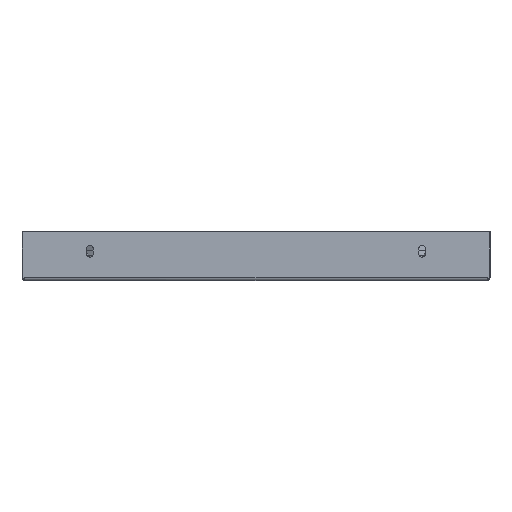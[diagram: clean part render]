
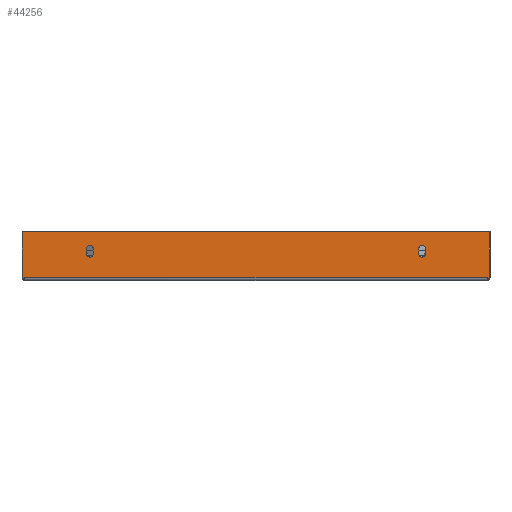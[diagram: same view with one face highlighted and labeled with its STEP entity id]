
A CAD part, front view. The second image highlights one B-rep face of the part: STEP entity #44256.
In plain terms, the highlighted planar face has unit normal (0, -1, 0).
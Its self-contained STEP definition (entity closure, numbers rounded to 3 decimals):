
#10443=DIRECTION('',(0.,0.,-1.));
#10444=VECTOR('',#10443,47.);
#10445=CARTESIAN_POINT('',(238.5,-142.913,23.9));
#10446=LINE('',#10445,#10444);
#10468=DIRECTION('',(-1.,0.,0.));
#10469=VECTOR('',#10468,477.);
#10470=CARTESIAN_POINT('',(238.5,-142.913,23.9));
#10471=LINE('',#10470,#10469);
#10568=DIRECTION('',(0.,0.,1.));
#10569=VECTOR('',#10568,47.);
#10570=CARTESIAN_POINT('',(-238.5,-142.913,
-23.1));
#10571=LINE('',#10570,#10569);
#10581=DIRECTION('',(0.,0.,1.));
#10582=VECTOR('',#10581,5.);
#10583=CARTESIAN_POINT('',(166.5,-142.913,1.4));
#10584=LINE('',#10583,#10582);
#10585=CARTESIAN_POINT('',(170.,-142.913,1.4));
#10586=DIRECTION('',(0.,-1.,0.));
#10587=DIRECTION('',(-1.,0.,0.));
#10588=AXIS2_PLACEMENT_3D('',#10585,#10586,#10587);
#10590=DIRECTION('',(0.,0.,-1.));
#10591=VECTOR('',#10590,5.);
#10592=CARTESIAN_POINT('',(173.5,-142.913,6.4));
#10593=LINE('',#10592,#10591);
#10594=CARTESIAN_POINT('',(170.,-142.913,6.4));
#10595=DIRECTION('',(0.,1.,0.));
#10596=DIRECTION('',(-1.,0.,0.));
#10597=AXIS2_PLACEMENT_3D('',#10594,#10595,#10596);
#10599=DIRECTION('',(0.,0.,1.));
#10600=VECTOR('',#10599,5.);
#10601=CARTESIAN_POINT('',(-173.5,-142.913,1.4));
#10602=LINE('',#10601,#10600);
#10603=CARTESIAN_POINT('',(-170.,-142.913,1.4));
#10604=DIRECTION('',(0.,1.,0.));
#10605=DIRECTION('',(1.,0.,0.));
#10606=AXIS2_PLACEMENT_3D('',#10603,#10604,#10605);
#10608=DIRECTION('',(0.,0.,-1.));
#10609=VECTOR('',#10608,5.);
#10610=CARTESIAN_POINT('',(-166.5,-142.913,6.4));
#10611=LINE('',#10610,#10609);
#10612=CARTESIAN_POINT('',(-170.,-142.913,6.4));
#10613=DIRECTION('',(0.,-1.,0.));
#10614=DIRECTION('',(1.,0.,0.));
#10615=AXIS2_PLACEMENT_3D('',#10612,#10613,#10614);
#10636=CARTESIAN_POINT('',(-236.793,-142.913,-23.1));
#10642=DIRECTION('',(-1.,0.,0.));
#10643=VECTOR('',#10642,473.586);
#10644=CARTESIAN_POINT('',(236.793,-142.913,
-23.1));
#10645=LINE('',#10644,#10643);
#10667=DIRECTION('',(-1.,0.,0.));
#10668=VECTOR('',#10667,1.707);
#10669=CARTESIAN_POINT('',(-236.793,-142.913,-23.1));
#10670=LINE('',#10669,#10668);
#10671=CARTESIAN_POINT('',(-238.5,-142.913,
-23.1));
#10695=DIRECTION('',(-1.,0.,0.));
#10696=VECTOR('',#10695,1.707);
#10697=CARTESIAN_POINT('',(238.5,-142.913,
-23.1));
#10698=LINE('',#10697,#10696);
#33903=CARTESIAN_POINT('',(166.5,-142.913,6.4));
#33904=CARTESIAN_POINT('',(173.5,-142.913,6.4));
#33905=VERTEX_POINT('',#33903);
#33906=VERTEX_POINT('',#33904);
#33908=CARTESIAN_POINT('',(166.5,-142.913,1.4));
#33910=VERTEX_POINT('',#33908);
#33911=CARTESIAN_POINT('',(173.5,-142.913,1.4));
#33912=VERTEX_POINT('',#33911);
#33913=CARTESIAN_POINT('',(-173.5,-142.913,1.4));
#33914=CARTESIAN_POINT('',(-173.5,-142.913,6.4));
#33915=VERTEX_POINT('',#33913);
#33916=VERTEX_POINT('',#33914);
#33917=CARTESIAN_POINT('',(-166.5,-142.913,1.4));
#33918=VERTEX_POINT('',#33917);
#33919=CARTESIAN_POINT('',(-166.5,-142.913,6.4));
#33920=VERTEX_POINT('',#33919);
#34033=CARTESIAN_POINT('',(238.5,-142.913,-23.1));
#34035=VERTEX_POINT('',#34033);
#34043=CARTESIAN_POINT('',(236.793,-142.913,
-23.1));
#34044=VERTEX_POINT('',#34043);
#34061=VERTEX_POINT('',#10671);
#34071=VERTEX_POINT('',#10636);
#34089=CARTESIAN_POINT('',(238.5,-142.913,23.9));
#34091=VERTEX_POINT('',#34089);
#34108=CARTESIAN_POINT('',(-238.5,-142.913,23.9));
#34110=VERTEX_POINT('',#34108);
#44220=CARTESIAN_POINT('',(237.5,-142.913,-24.1));
#44221=DIRECTION('',(0.,1.,0.));
#44222=DIRECTION('',(0.,0.,1.));
#44223=AXIS2_PLACEMENT_3D('',#44220,#44221,#44222);
#44224=PLANE('',#44223);
#44226=ORIENTED_EDGE('',*,*,#44225,.T.);
#44228=ORIENTED_EDGE('',*,*,#44227,.T.);
#44229=ORIENTED_EDGE('',*,*,#44213,.T.);
#44230=ORIENTED_EDGE('',*,*,#44048,.F.);
#44231=ORIENTED_EDGE('',*,*,#44025,.T.);
#44233=ORIENTED_EDGE('',*,*,#44232,.T.);
#44234=EDGE_LOOP('',(#44226,#44228,#44229,#44230,#44231,#44233));
#44235=FACE_OUTER_BOUND('',#44234,.F.);
#44237=ORIENTED_EDGE('',*,*,#44236,.F.);
#44239=ORIENTED_EDGE('',*,*,#44238,.T.);
#44241=ORIENTED_EDGE('',*,*,#44240,.F.);
#44243=ORIENTED_EDGE('',*,*,#44242,.F.);
#44244=EDGE_LOOP('',(#44237,#44239,#44241,#44243));
#44245=FACE_BOUND('',#44244,.F.);
#44247=ORIENTED_EDGE('',*,*,#44246,.F.);
#44249=ORIENTED_EDGE('',*,*,#44248,.F.);
#44251=ORIENTED_EDGE('',*,*,#44250,.F.);
#44253=ORIENTED_EDGE('',*,*,#44252,.T.);
#44254=EDGE_LOOP('',(#44247,#44249,#44251,#44253));
#44255=FACE_BOUND('',#44254,.F.);
#10589=CIRCLE('',#10588,3.5);
#10598=CIRCLE('',#10597,3.5);
#10607=CIRCLE('',#10606,3.5);
#10616=CIRCLE('',#10615,3.5);
#44025=EDGE_CURVE('',#34091,#34035,#10446,.T.);
#44048=EDGE_CURVE('',#34091,#34110,#10471,.T.);
#44213=EDGE_CURVE('',#34061,#34110,#10571,.T.);
#44225=EDGE_CURVE('',#34044,#34071,#10645,.T.);
#44227=EDGE_CURVE('',#34071,#34061,#10670,.T.);
#44232=EDGE_CURVE('',#34035,#34044,#10698,.T.);
#44236=EDGE_CURVE('',#33910,#33905,#10584,.T.);
#44238=EDGE_CURVE('',#33910,#33912,#10589,.T.);
#44240=EDGE_CURVE('',#33906,#33912,#10593,.T.);
#44242=EDGE_CURVE('',#33905,#33906,#10598,.T.);
#44246=EDGE_CURVE('',#33915,#33916,#10602,.T.);
#44248=EDGE_CURVE('',#33918,#33915,#10607,.T.);
#44250=EDGE_CURVE('',#33920,#33918,#10611,.T.);
#44252=EDGE_CURVE('',#33920,#33916,#10616,.T.);
#44256=ADVANCED_FACE('',(#44235,#44245,#44255),#44224,.F.);
